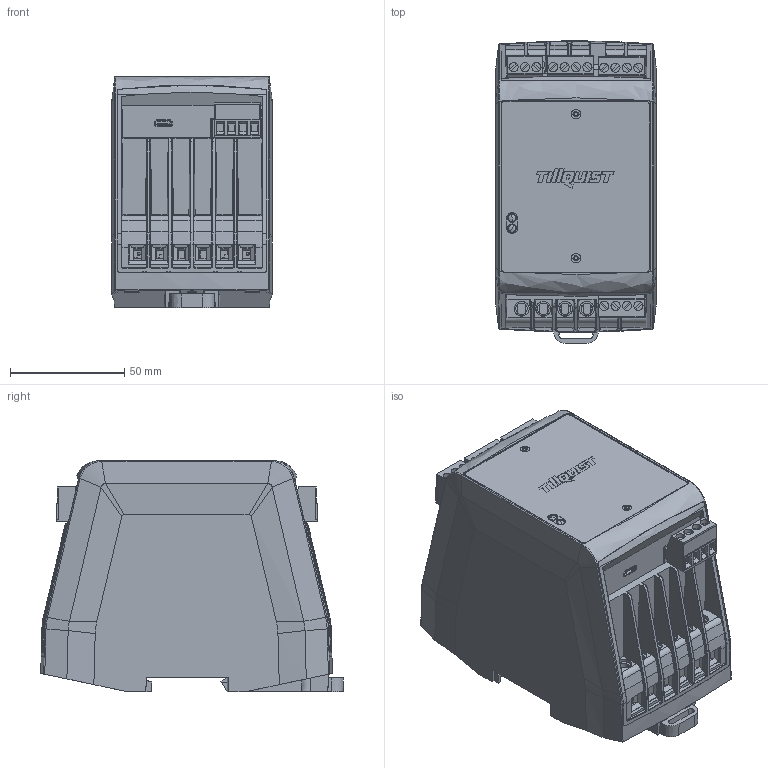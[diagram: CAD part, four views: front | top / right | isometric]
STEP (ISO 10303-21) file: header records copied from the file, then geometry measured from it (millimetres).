
FILE_DESCRIPTION (( 'STEP AP214' ), '1' );
FILE_NAME ('LQT40.STEP', '2023-08-30T14:00:58', ( '' ), ( '' ), 'SwSTEP 2.0', 'SolidWorks 2023', '' );
FILE_SCHEMA (( 'AUTOMOTIVE_DESIGN' ));
Length unit declared in the file: millimetre
Products named in the file (15): 09.03.0004; STP39A0180050; 01.02.0008; 01.02.0014; LQT40; 09.03.0002; LQT40_AOB-ALL-FUNCTIONS_R2B1_3D Model; 09.01.0003; 01.02.0009; LQT40_Mainboard_R3A1_Step_Model; LFB_litepipe_3mm_15_9mm; 01.02.0012; 09.03.0001; Etikett1_Front; 01.02.0010
Assembly tree (18 placements, depth 2):
  LQT40
    01.02.0008
    01.02.0009
    01.02.0010
    01.02.0012
    01.02.0014
    09.03.0002
    09.03.0001
    09.03.0004
    09.01.0003
    LFB_litepipe_3mm_15_9mm  x2
    LQT40_Mainboard_R3A1_Step_Model
    Etikett1_Front
    STP39A0180050  x4
    LQT40_AOB-ALL-FUNCTIONS_R2B1_3D Model
Bounding box: 70 x 132.3 x 101.1 mm (x, y, z)
Volume: 111359.1 mm3; surface area: 163012.6 mm2
Topology: 25 solids, 69 shells, 4539 faces, 13416 edges, 8903 vertices
Faces by surface type: plane 2708, bspline 1128, cylinder 447, cone 222, torus 30, sphere 4
Entity records: 190342 total; most frequent: CARTESIAN_POINT 68315, ORIENTED_EDGE 23657, DIRECTION 17201, EDGE_CURVE 12824, VERTEX_POINT 8553, VECTOR 8141, LINE 8141, AXIS2_PLACEMENT_3D 4530
